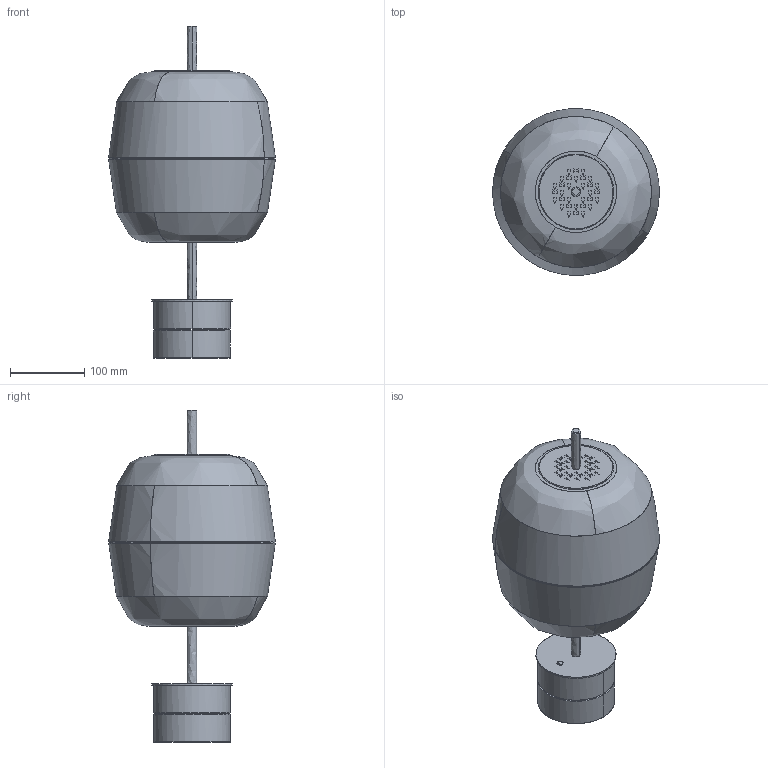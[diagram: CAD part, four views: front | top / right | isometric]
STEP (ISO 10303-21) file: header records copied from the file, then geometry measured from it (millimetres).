
FILE_DESCRIPTION(/* description */ (''),/* implementation_level */ '2;1');
FILE_NAME(/* name */ 'C181__.023',/* time_stamp */ '2025-05-16T10:05:22+02:00',/* author */ (''),/* organization */ (''),/* preprocessor_version */ 'ST-DEVELOPER v16.5',/* originating_system */ '',/* authorisation */ '');
FILE_SCHEMA (('AUTOMOTIVE_DESIGN'));
Length unit declared in the file: millimetre
Products named in the file (25): Document; 3500.0033000.00 (schermo ovale VETRO sp 7 con decoro molato)_3512.003
3023.00; Blocco 02; 3300.0538000.00 (barra tonda OTTONE Ø 13mm H 60mm con filetto M4)
_3307.0538000.00; Blocco 69; 3300.0115000.00 (base cilindrica ALL D 104mm H 37mm)_3306.0115012.00; Blocco 65; OT tiger 2387; Blocco 71; 3300.0115000.00 (base cilindrica ALL D 104mm H 37mm)_3306.0115011.00; Blocco 10; 5205.0004007.00 (nipplo D 10mm sp 2 gambo H 7mm M8x1 PC trasparente S
teab 5475-3-07-011)_5205.0004007.00; Blocco 14; 3200.0886000.00 (peso circolare ''E'' ACC Ø 108mm sp 3)_3201.
0887000.00; Blocco 68; 3200.0888000.00 (tubo tondo ACC Ø 13mm sp 2)_3207.0888028.00; Blocco 06; 3200.00881000.00 (piattello chiusura ACC Ø 102mm sp 2)_3201.08810
01.00; Blocco 07; 3100.0037001.00 (schermo anello PMMA D est. 100,4mm D int. 57,3mm sp 
3)_3105.0037001.99; Blocco 05; 3200.0889000.00 (piattello di chiusura con uscita cavo ACC Ø 64mm
 sp 3)_3205.0889000.00; Blocco 16; 3300.0116000.00 (testa cilindrica ALL D 101mm H 10mm)_3306.0116004.00; Blocco 09
Assembly tree (24 placements, depth 3):
  Document
    3500.0033000.00 (schermo ovale VETRO sp 7 con decoro molato)_3512.003
3023.00
      Blocco 02
    3300.0538000.00 (barra tonda OTTONE Ø 13mm H 60mm con filetto M4)
_3307.0538000.00
      Blocco 69
    3300.0115000.00 (base cilindrica ALL D 104mm H 37mm)_3306.0115012.00
      Blocco 65
    OT tiger 2387
      Blocco 71
    3300.0115000.00 (base cilindrica ALL D 104mm H 37mm)_3306.0115011.00
      Blocco 10
    5205.0004007.00 (nipplo D 10mm sp 2 gambo H 7mm M8x1 PC trasparente S
teab 5475-3-07-011)_5205.0004007.00
      Blocco 14
    3200.0886000.00 (peso circolare ''E'' ACC Ø 108mm sp 3)_3201.
0887000.00
      Blocco 68
    3200.0888000.00 (tubo tondo ACC Ø 13mm sp 2)_3207.0888028.00
      Blocco 06
    3200.00881000.00 (piattello chiusura ACC Ø 102mm sp 2)_3201.08810
01.00
      Blocco 07
    3100.0037001.00 (schermo anello PMMA D est. 100,4mm D int. 57,3mm sp 
3)_3105.0037001.99
      Blocco 05
    3200.0889000.00 (piattello di chiusura con uscita cavo ACC Ø 64mm
 sp 3)_3205.0889000.00
      Blocco 16
    3300.0116000.00 (testa cilindrica ALL D 101mm H 10mm)_3306.0116004.00
      Blocco 09
Bounding box: 224.98 x 224.75 x 447.9 mm (x, y, z)
Surface area: 524987.2 mm2
Topology: 1 solids, 770 shells, 775 faces, 4034 edges, 3984 vertices
Faces by surface type: bspline 691, plane 84
Entity records: 64058 total; most frequent: CARTESIAN_POINT 44599, ORIENTED_EDGE 3996, EDGE_CURVE 3988, VERTEX_POINT 3984, B_SPLINE_CURVE_WITH_KNOTS 1688, EDGE_LOOP 900, ADVANCED_FACE 775, FACE_OUTER_BOUND 775
